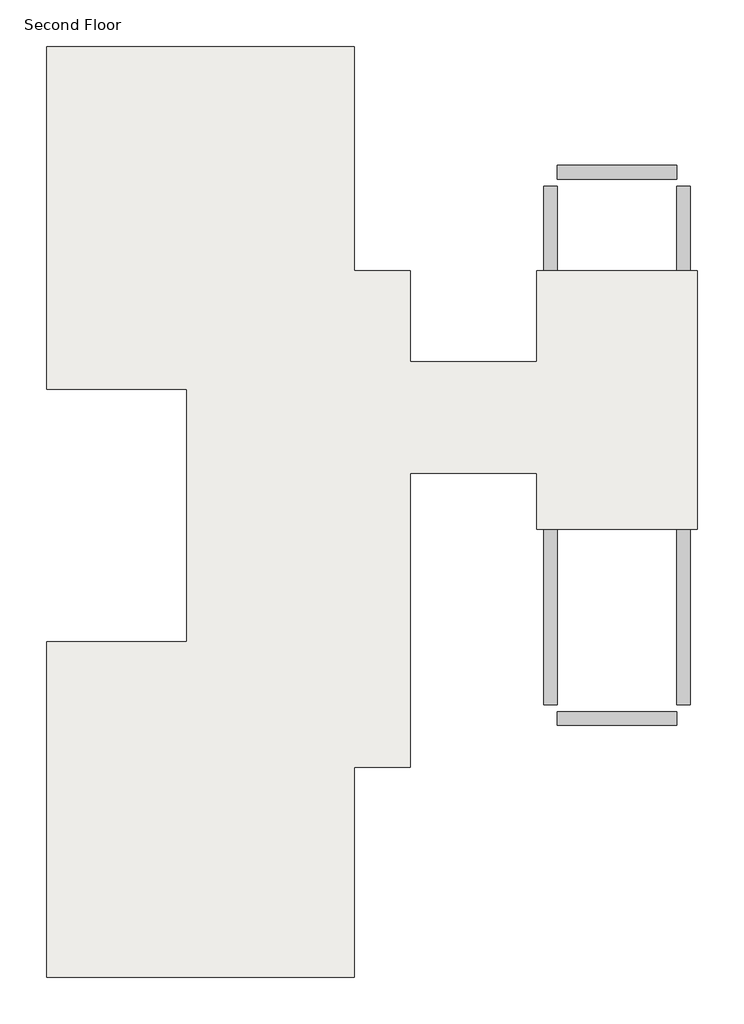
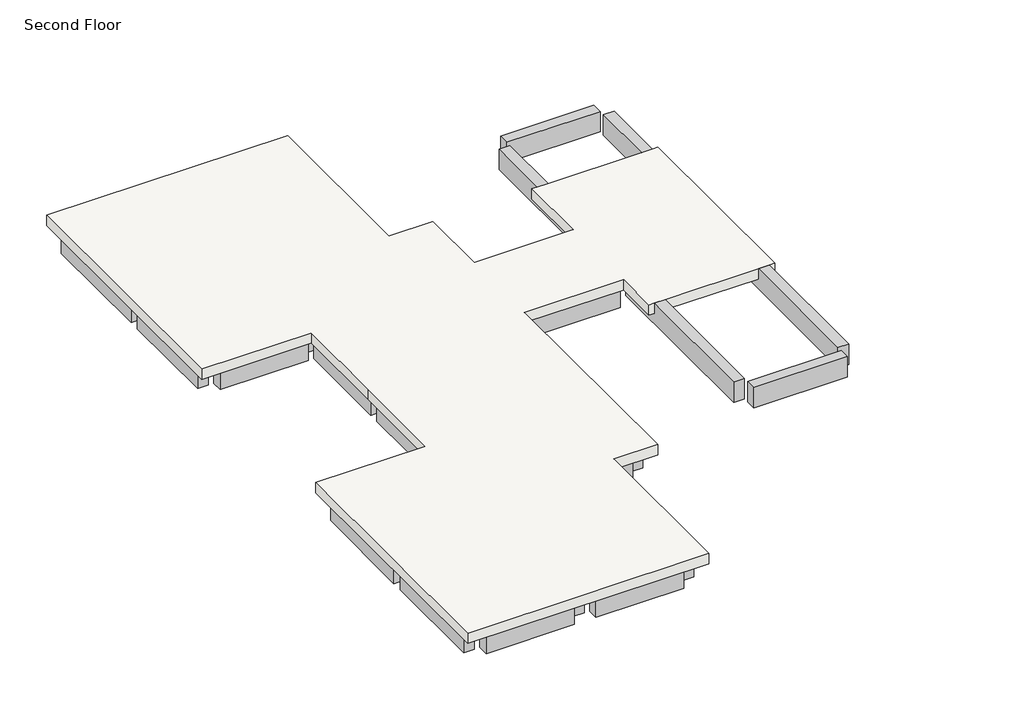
# One storey: 20 beams, 1 slab.
"""IFC4 building model written with IfcOpenShell, lengths in millimetres."""

from ifc_helpers import new_model, si_unit, frame, origin, place, context, project, spatial, polyline, outline, extrude, faceted_brep, element, save

model = new_model("IFC4")

# Units and contexts
model_context = context("Model", 3, world=origin())
ifc_project = project(units=[si_unit("LENGTHUNIT", "METRE", prefix="MILLI")], contexts=[model_context])

# Site, building, storey
site = spatial("IfcSite", under=ifc_project)
building = spatial("IfcBuilding", under=site)
storey = spatial("IfcBuildingStorey", under=building, Name="Second Floor", Elevation=3810.0)

# Beams
placement = place(None, origin())
element("IfcBeam", 1, ObjectType="M_Concrete-Rectangular Beam : 300 x 600mm", at=placement, inside=storey, context=model_context, shape_type="Brep", body=[
    faceted_brep([(-10964.7526929, 13307.19569, 3510.0), (-14012.7526929, 13307.19569, 3510.0), (-14012.7526929, 13157.19569, 3510.0), (-14012.7526929, 13007.19569, 3510.0), (-13862.7526929, 13007.19569, 3510.0), (-11114.7526929, 13007.19569, 3510.0), (-10964.7526929, 13007.19569, 3510.0), (-10964.7526929, 13157.19569, 3510.0), (-14012.7526929, 13007.19569, 3505.2), (-13712.7526929, 13007.19569, 3505.2), (-13712.7526929, 13007.19569, 2910.0), (-11264.7526929, 13007.19569, 2910.0), (-11264.7526929, 13007.19569, 3505.2), (-10964.7526929, 13007.19569, 3505.2), (-13712.7526929, 13307.19569, 2910.0), (-11264.7526929, 13307.19569, 2910.0), (-10964.7526929, 13307.19569, 3505.2), (-11264.7526929, 13307.19569, 3505.2), (-13712.7526929, 13307.19569, 3505.2), (-14012.7526929, 13307.19569, 3505.2), (-14012.7526929, 13157.19569, 3505.2), (-10964.7526929, 13157.19569, 3505.2)], [[[0, 1, 2, 3, 4, 5, 6, 7]], [[6, 5, 4, 3, 8, 9, 10, 11, 12, 13]], [[10, 14, 15, 11]], [[1, 0, 16, 17, 15, 14, 18, 19]], [[9, 18, 14, 10]], [[18, 9, 8, 20, 19]], [[17, 12, 11, 15]], [[12, 17, 16, 21, 13]], [[3, 2, 1, 19, 20, 8]], [[0, 7, 6, 13, 21, 16]]]),
])
element("IfcBeam", 2, ObjectType="M_Concrete-Rectangular Beam : 300 x 600mm", at=placement, inside=storey, context=model_context, shape_type="Brep", body=[
    faceted_brep([(-7916.7526929, 13307.19569, 3510.0), (-10964.7526929, 13307.19569, 3510.0), (-10964.7526929, 13157.19569, 3510.0), (-10814.7526929, 13157.19569, 3510.0), (-10814.7526929, 13007.19569, 3510.0), (-8066.7526929, 13007.19569, 3510.0), (-7916.7526929, 13007.19569, 3510.0), (-7916.7526929, 13157.19569, 3510.0), (-10664.7526929, 13007.19569, 3505.2), (-10664.7526929, 13007.19569, 2910.0), (-8216.7526929, 13007.19569, 2910.0), (-8216.7526929, 13007.19569, 3505.2), (-7916.7526929, 13007.19569, 3505.2), (-10814.7526929, 13007.19569, 3505.2), (-10664.7526929, 13307.19569, 2910.0), (-8216.7526929, 13307.19569, 2910.0), (-7916.7526929, 13307.19569, 3505.2), (-8216.7526929, 13307.19569, 3505.2), (-10664.7526929, 13307.19569, 3505.2), (-10964.7526929, 13307.19569, 3505.2), (-10814.7526929, 13157.19569, 3505.2), (-10964.7526929, 13157.19569, 3505.2), (-7916.7526929, 13157.19569, 3505.2)], [[[0, 1, 2, 3, 4, 5, 6, 7]], [[8, 9, 10, 11, 12, 6, 5, 4, 13]], [[9, 14, 15, 10]], [[1, 0, 16, 17, 15, 14, 18, 19]], [[8, 18, 14, 9]], [[18, 8, 13, 20, 21, 19]], [[17, 11, 10, 15]], [[11, 17, 16, 22, 12]], [[3, 20, 13, 4]], [[1, 19, 21, 2]], [[0, 7, 6, 12, 22, 16]], [[20, 3, 2, 21]]]),
])
element("IfcBeam", 3, ObjectType="M_Concrete-Rectangular Beam : 300 x 600mm", at=placement, inside=storey, context=model_context, shape_type="Brep", body=[
    faceted_brep([(-14162.7526929, 13157.19569, 3510.0), (-14162.7526929, 6299.19569, 3510.0), (-14012.7526929, 6299.19569, 3510.0), (-13862.7526929, 6299.19569, 3510.0), (-13862.7526929, 6449.19569, 3510.0), (-13862.7526929, 9349.59569, 3510.0), (-13862.7526929, 9649.59569, 3510.0), (-13862.7526929, 13007.19569, 3510.0), (-14012.7526929, 13007.19569, 3510.0), (-14012.7526929, 13157.19569, 3510.0), (-14162.7526929, 13157.19569, 3505.2), (-14162.7526929, 13007.19569, 3505.2), (-14162.7526929, 13007.19569, 2910.0), (-14162.7526929, 9649.59569, 2910.0), (-14162.7526929, 9649.59569, 3505.2), (-14162.7526929, 9349.59569, 3505.2), (-14162.7526929, 9349.59569, 2910.0), (-14162.7526929, 6449.19569, 2910.0), (-14162.7526929, 6449.19569, 3505.2), (-14162.7526929, 6299.19569, 3505.2), (-13862.7526929, 9349.59569, 2910.0), (-13862.7526929, 6449.19569, 2910.0), (-13862.7526929, 9649.59569, 3505.2), (-13862.7526929, 9649.59569, 2910.0), (-13862.7526929, 13007.19569, 2910.0), (-13862.7526929, 6299.19569, 3505.2), (-13862.7526929, 6449.19569, 3505.2), (-13862.7526929, 9349.59569, 3505.2), (-14012.7526929, 13007.19569, 3505.2), (-14012.7526929, 13157.19569, 3505.2), (-14012.7526929, 6299.19569, 3505.2)], [[[0, 1, 2, 3, 4, 5, 6, 7, 8, 9]], [[1, 0, 10, 11, 12, 13, 14, 15, 16, 17, 18, 19]], [[16, 20, 21, 17]], [[22, 23, 24, 7, 6, 5, 4, 3, 25, 26, 21, 20, 27]], [[8, 7, 24, 12, 11, 28]], [[28, 11, 10, 29]], [[22, 14, 13, 23]], [[15, 27, 20, 16]], [[14, 22, 27, 15]], [[23, 13, 12, 24]], [[26, 18, 17, 21]], [[18, 26, 25, 30, 19]], [[0, 9, 29, 10]], [[3, 2, 1, 19, 30, 25]], [[9, 8, 28, 29]]]),
])
element("IfcBeam", 4, ObjectType="M_Concrete-Rectangular Beam : 300 x 600mm", at=placement, inside=storey, context=model_context, shape_type="Brep", body=[
    faceted_brep([(-13862.7526929, 9649.59569, 3510.0), (-13862.7526929, 9349.59569, 3510.0), (-11114.7526929, 9349.59569, 3510.0), (-10814.7526929, 9349.59569, 3510.0), (-8066.7526929, 9349.59569, 3510.0), (-8066.7526929, 9649.59569, 3510.0), (-10814.7526929, 9649.59569, 3510.0), (-11114.7526929, 9649.59569, 3510.0), (-13862.7526929, 9349.59569, 3505.2), (-13712.7526929, 9349.59569, 3505.2), (-13712.7526929, 9349.59569, 2910.0), (-11264.7526929, 9349.59569, 2910.0), (-11264.7526929, 9349.59569, 3505.2), (-10664.7526929, 9349.59569, 3505.2), (-10664.7526929, 9349.59569, 2910.0), (-8216.7526929, 9349.59569, 2910.0), (-8216.7526929, 9349.59569, 3505.2), (-8066.7526929, 9349.59569, 3505.2), (-13712.7526929, 9649.59569, 2910.0), (-11264.7526929, 9649.59569, 2910.0), (-13862.7526929, 9649.59569, 3505.2), (-8066.7526929, 9649.59569, 3505.2), (-8216.7526929, 9649.59569, 3505.2), (-8216.7526929, 9649.59569, 2910.0), (-10664.7526929, 9649.59569, 2910.0), (-10664.7526929, 9649.59569, 3505.2), (-11264.7526929, 9649.59569, 3505.2), (-13712.7526929, 9649.59569, 3505.2)], [[[0, 1, 2, 3, 4, 5, 6, 7]], [[1, 8, 9, 10, 11, 12, 13, 14, 15, 16, 17, 4, 3, 2]], [[10, 18, 19, 11]], [[20, 0, 7, 6, 5, 21, 22, 23, 24, 25, 26, 19, 18, 27]], [[1, 0, 20, 8]], [[9, 27, 18, 10]], [[27, 9, 8, 20]], [[13, 25, 24, 14]], [[26, 12, 11, 19]], [[25, 13, 12, 26]], [[14, 24, 23, 15]], [[22, 16, 15, 23]], [[16, 22, 21, 17]], [[5, 4, 17, 21]]]),
])
element("IfcBeam", 5, ObjectType="M_Concrete-Rectangular Beam : 300 x 600mm", at=placement, inside=storey, context=model_context, shape_type="Brep", body=[
    faceted_brep([(-13862.7526929, 6449.19569, 3510.0), (-13862.7526929, 6299.19569, 3510.0), (-14012.7526929, 6299.19569, 3510.0), (-14012.7526929, 6149.19569, 3510.0), (-11114.7526929, 6149.19569, 3510.0), (-10814.7526929, 6149.19569, 3510.0), (-6847.5526929, 6149.19569, 3510.0), (-6547.5526929, 6149.19569, 3510.0), (-3644.7526929, 6149.19569, 3510.0), (-3644.7526929, 6449.19569, 3510.0), (-6547.5526929, 6449.19569, 3510.0), (-6847.5526929, 6449.19569, 3510.0), (-10814.7526929, 6449.19569, 3510.0), (-11114.7526929, 6449.19569, 3510.0), (-6397.5526929, 6149.19569, 3505.2), (-6397.5526929, 6149.19569, 2910.0), (-3644.7526929, 6149.19569, 2910.0), (-14012.7526929, 6149.19569, 3505.2), (-13712.7526929, 6149.19569, 3505.2), (-13712.7526929, 6149.19569, 2910.0), (-11264.7526929, 6149.19569, 2910.0), (-11264.7526929, 6149.19569, 3505.2), (-10664.7526929, 6149.19569, 3505.2), (-10664.7526929, 6149.19569, 2910.0), (-6997.5526929, 6149.19569, 2910.0), (-6997.5526929, 6149.19569, 3505.2), (-11264.7526929, 6449.19569, 2910.0), (-13712.7526929, 6449.19569, 2910.0), (-6397.5526929, 6449.19569, 2910.0), (-6397.5526929, 6449.19569, 3505.2), (-6997.5526929, 6449.19569, 3505.2), (-6997.5526929, 6449.19569, 2910.0), (-10664.7526929, 6449.19569, 2910.0), (-10664.7526929, 6449.19569, 3505.2), (-11264.7526929, 6449.19569, 3505.2), (-13712.7526929, 6449.19569, 3505.2), (-13862.7526929, 6449.19569, 3505.2), (-3644.7526929, 6449.19569, 2910.0), (-13862.7526929, 6299.19569, 3505.2), (-14012.7526929, 6299.19569, 3505.2)], [[[0, 1, 2, 3, 4, 5, 6, 7, 8, 9, 10, 11, 12, 13]], [[14, 15, 16, 8, 7, 6, 5, 4, 3, 17, 18, 19, 20, 21, 22, 23, 24, 25]], [[26, 20, 19, 27]], [[28, 29, 30, 31, 32, 33, 34, 26, 27, 35, 36, 0, 13, 12, 11, 10, 9, 37]], [[1, 0, 36, 38]], [[14, 29, 28, 15]], [[30, 25, 24, 31]], [[29, 14, 25, 30]], [[22, 33, 32, 23]], [[34, 21, 20, 26]], [[33, 22, 21, 34]], [[18, 35, 27, 19]], [[35, 18, 17, 39, 38, 36]], [[9, 8, 16, 37]], [[31, 24, 23, 32]], [[15, 28, 37, 16]], [[3, 2, 39, 17]], [[2, 1, 38, 39]]]),
    faceted_brep([(-749.1526929, 6449.19569, 3510.0), (-749.1526929, 6149.19569, 3510.0), (-749.1526929, 6149.19569, 2910.0), (-749.1526929, 6449.19569, 2910.0), (-3044.7526929, 6149.19569, 2910.0), (-3044.7526929, 6449.19569, 2910.0), (-3044.7526929, 6149.19569, 3510.0), (-3044.7526929, 6449.19569, 3510.0)], [[[0, 1, 2, 3]], [[3, 2, 4, 5]], [[6, 7, 5, 4]], [[1, 0, 7, 6]], [[2, 1, 6, 4]], [[0, 3, 5, 7]]]),
])
element("IfcBeam", 6, ObjectType="M_Concrete-Rectangular Beam : 300 x 600mm", at=placement, inside=storey, context=model_context, shape_type="Brep", body=[
    faceted_brep([(-10964.7526929, 13007.19569, 3510.0), (-11114.7526929, 13007.19569, 3510.0), (-11114.7526929, 9649.59569, 3510.0), (-10814.7526929, 9649.59569, 3510.0), (-10814.7526929, 13007.19569, 3510.0), (-10814.7526929, 13157.19569, 3510.0), (-10964.7526929, 13157.19569, 3510.0), (-11114.7526929, 9649.59569, 2910.0), (-11114.7526929, 13007.19569, 2910.0), (-10814.7526929, 9649.59569, 2910.0), (-10814.7526929, 13007.19569, 2910.0), (-10814.7526929, 13007.19569, 3505.2), (-10814.7526929, 13157.19569, 3505.2), (-10964.7526929, 13007.19569, 3505.2), (-10964.7526929, 13157.19569, 3505.2)], [[[0, 1, 2, 3, 4, 5, 6]], [[7, 2, 1, 8]], [[9, 7, 8, 10]], [[3, 9, 10, 11, 12, 5, 4]], [[1, 0, 13, 11, 10, 8]], [[11, 13, 14, 12]], [[7, 9, 3, 2]], [[6, 5, 12, 14]], [[0, 6, 14, 13]]]),
    faceted_brep([(-10814.7526929, 9349.59569, 2910.0), (-11114.7526929, 9349.59569, 2910.0), (-11114.7526929, 9349.59569, 3510.0), (-10814.7526929, 9349.59569, 3510.0), (-10814.7526929, 6449.19569, 2910.0), (-10814.7526929, 6449.19569, 3510.0), (-11114.7526929, 6449.19569, 3510.0), (-11114.7526929, 6449.19569, 2910.0)], [[[0, 1, 2, 3]], [[4, 5, 6, 7]], [[2, 1, 7, 6]], [[0, 3, 5, 4]], [[1, 0, 4, 7]], [[3, 2, 6, 5]]]),
    faceted_brep([(-11114.7526929, 3401.19569, 2910.0), (-11114.7526929, 6149.19569, 2910.0), (-10814.7526929, 6149.19569, 2910.0), (-10814.7526929, 3401.19569, 2910.0), (-11114.7526929, 6149.19569, 3510.0), (-10814.7526929, 6149.19569, 3510.0), (-10814.7526929, 3401.19569, 3505.2), (-11114.7526929, 3401.19569, 3505.2), (-11114.7526929, 3101.19569, 3505.2), (-10814.7526929, 3101.19569, 3505.2), (-10814.7526929, 3101.19569, 2910.0), (-11114.7526929, 3101.19569, 2910.0), (-10814.7526929, 353.19569, 3505.2), (-11114.7526929, 353.19569, 3505.2), (-11114.7526929, 353.19569, 2910.0), (-10814.7526929, 353.19569, 2910.0), (-11114.7526929, 53.19569, 3505.2), (-10814.7526929, 53.19569, 3505.2), (-10814.7526929, 53.19569, 2910.0), (-11114.7526929, 53.19569, 2910.0), (-10814.7526929, -2999.60431, 3505.2), (-11114.7526929, -2999.60431, 3505.2), (-11114.7526929, -2999.60431, 2910.0), (-10814.7526929, -2999.60431, 2910.0), (-11114.7526929, -3299.60431, 3505.2), (-10814.7526929, -3299.60431, 3505.2), (-10814.7526929, -3299.60431, 2910.0), (-11114.7526929, -3299.60431, 2910.0), (-11114.7526929, -6352.40431, 2910.0), (-10814.7526929, -6352.40431, 2910.0), (-10814.7526929, -6352.40431, 3510.0), (-11114.7526929, -6352.40431, 3510.0), (-11114.7526929, 353.19569, 3510.0), (-11114.7526929, 53.19569, 3510.0), (-11114.7526929, -2999.60431, 3510.0), (-11114.7526929, -3299.60431, 3510.0), (-10814.7526929, -3299.60431, 3510.0), (-10814.7526929, -2999.60431, 3510.0), (-10814.7526929, 53.19569, 3510.0), (-10814.7526929, 353.19569, 3510.0)], [[[0, 1, 2, 3]], [[1, 4, 5, 2]], [[6, 7, 0, 3]], [[8, 9, 10, 11]], [[7, 6, 9, 8]], [[12, 13, 14, 15]], [[16, 17, 18, 19]], [[13, 12, 17, 16]], [[20, 21, 22, 23]], [[24, 25, 26, 27]], [[21, 20, 25, 24]], [[28, 29, 30, 31]], [[5, 4, 32, 33, 34, 35, 31, 30, 36, 37, 38, 39]], [[0, 7, 8, 11, 14, 13, 16, 19, 22, 21, 24, 27, 28, 31, 35, 34, 33, 32, 4, 1]], [[6, 3, 2, 5, 39, 38, 37, 36, 30, 29, 26, 25, 20, 23, 18, 17, 12, 15, 10, 9]], [[28, 27, 26, 29]], [[14, 11, 10, 15]], [[22, 19, 18, 23]]]),
])
element("IfcBeam", 7, ObjectType="M_Concrete-Rectangular Beam : 300 x 600mm", at=placement, inside=storey, context=model_context, shape_type="Brep", body=[
    faceted_brep([(-13862.7526929, -6502.40431, 3510.0), (-13862.7526929, -6352.40431, 3510.0), (-13862.7526929, -3299.60431, 3510.0), (-13862.7526929, -2999.60431, 3510.0), (-13862.7526929, 53.19569, 3510.0), (-13862.7526929, 203.19569, 3510.0), (-14012.7526929, 203.19569, 3510.0), (-14162.7526929, 203.19569, 3510.0), (-14162.7526929, -6502.40431, 3510.0), (-14012.7526929, -6502.40431, 3510.0), (-14162.7526929, 203.19569, 3505.2), (-14162.7526929, 53.19569, 3505.2), (-14162.7526929, 53.19569, 2910.0), (-14162.7526929, -2999.60431, 2910.0), (-14162.7526929, -2999.60431, 3505.2), (-14162.7526929, -3299.60431, 3505.2), (-14162.7526929, -3299.60431, 2910.0), (-14162.7526929, -6352.40431, 2910.0), (-14162.7526929, -6352.40431, 3505.2), (-14162.7526929, -6502.40431, 3505.2), (-13862.7526929, 53.19569, 2910.0), (-13862.7526929, -2999.60431, 2910.0), (-13862.7526929, -6502.40431, 3505.2), (-13862.7526929, -6352.40431, 3505.2), (-13862.7526929, -6352.40431, 2910.0), (-13862.7526929, -3299.60431, 2910.0), (-13862.7526929, -3299.60431, 3505.2), (-13862.7526929, -2999.60431, 3505.2), (-13862.7526929, 53.19569, 3505.2), (-13862.7526929, 203.19569, 3505.2), (-14012.7526929, 203.19569, 3505.2), (-14012.7526929, -6502.40431, 3505.2)], [[[0, 1, 2, 3, 4, 5, 6, 7, 8, 9]], [[8, 7, 10, 11, 12, 13, 14, 15, 16, 17, 18, 19]], [[12, 20, 21, 13]], [[5, 4, 3, 2, 1, 0, 22, 23, 24, 25, 26, 27, 21, 20, 28, 29]], [[11, 28, 20, 12]], [[28, 11, 10, 30, 29]], [[27, 14, 13, 21]], [[15, 26, 25, 16]], [[14, 27, 26, 15]], [[16, 25, 24, 17]], [[23, 18, 17, 24]], [[18, 23, 22, 31, 19]], [[7, 6, 5, 29, 30, 10]], [[0, 9, 8, 19, 31, 22]]]),
])
element("IfcBeam", 8, ObjectType="M_Concrete-Rectangular Beam : 300 x 600mm", at=placement, inside=storey, context=model_context, shape_type="Brep", body=[
    faceted_brep([(-13862.7526929, 203.19569, 3510.0), (-13862.7526929, 53.19569, 3510.0), (-11114.7526929, 53.19569, 3510.0), (-11114.7526929, 353.19569, 3510.0), (-14012.7526929, 353.19569, 3510.0), (-14012.7526929, 203.19569, 3510.0), (-13862.7526929, 53.19569, 3505.2), (-13712.7526929, 53.19569, 3505.2), (-13712.7526929, 53.19569, 2910.0), (-11264.7526929, 53.19569, 2910.0), (-11264.7526929, 53.19569, 3505.2), (-11114.7526929, 53.19569, 3505.2), (-13712.7526929, 353.19569, 2910.0), (-11264.7526929, 353.19569, 2910.0), (-13862.7526929, 203.19569, 3505.2), (-13712.7526929, 353.19569, 3505.2), (-14012.7526929, 203.19569, 3505.2), (-14012.7526929, 353.19569, 3505.2), (-11264.7526929, 353.19569, 3505.2), (-11114.7526929, 353.19569, 3505.2)], [[[0, 1, 2, 3, 4, 5]], [[1, 6, 7, 8, 9, 10, 11, 2]], [[8, 12, 13, 9]], [[1, 0, 14, 6]], [[7, 15, 12, 8]], [[15, 7, 6, 14, 16, 17]], [[18, 10, 9, 13]], [[10, 18, 19, 11]], [[3, 2, 11, 19]], [[12, 15, 17, 4, 3, 19, 18, 13]], [[5, 4, 17, 16]], [[0, 5, 16, 14]]]),
    faceted_brep([(-10664.7526929, 353.19569, 2910.0), (-10664.7526929, 353.19569, 3505.2), (-10814.7526929, 353.19569, 3505.2), (-10814.7526929, 353.19569, 3510.0), (-6847.5526929, 353.19569, 3510.0), (-6847.5526929, 353.19569, 3505.2), (-6997.5526929, 353.19569, 3505.2), (-6997.5526929, 353.19569, 2910.0), (-10664.7526929, 53.19569, 3505.2), (-10664.7526929, 53.19569, 2910.0), (-6997.5526929, 53.19569, 2910.0), (-6997.5526929, 53.19569, 3505.2), (-6847.5526929, 53.19569, 3505.2), (-10814.7526929, 53.19569, 3510.0), (-10814.7526929, 53.19569, 3505.2), (-6847.5526929, 53.19569, 3510.0)], [[[0, 1, 2, 3, 4, 5, 6, 7]], [[8, 1, 0, 9]], [[9, 0, 7, 10]], [[6, 11, 10, 7]], [[11, 6, 5, 12]], [[13, 3, 2, 14]], [[3, 13, 15, 4]], [[8, 9, 10, 11, 12, 15, 13, 14]], [[1, 8, 14, 2]], [[5, 4, 15, 12]]]),
])
element("IfcBeam", 9, ObjectType="M_Concrete-Rectangular Beam : 300 x 600mm", at=placement, inside=storey, context=model_context, shape_type="Brep", body=[
    faceted_brep([(-7916.7526929, 13007.19569, 3510.0), (-8066.7526929, 13007.19569, 3510.0), (-8066.7526929, 9649.59569, 3510.0), (-8066.7526929, 9349.59569, 3510.0), (-8066.7526929, 8130.39569, 3510.0), (-7766.7526929, 8130.39569, 3510.0), (-7766.7526929, 8430.39569, 3510.0), (-7766.7526929, 13157.19569, 3510.0), (-7916.7526929, 13157.19569, 3510.0), (-8066.7526929, 13007.19569, 2910.0), (-8066.7526929, 9649.59569, 2910.0), (-8066.7526929, 9649.59569, 3505.2), (-8066.7526929, 9349.59569, 3505.2), (-8066.7526929, 9349.59569, 2910.0), (-8066.7526929, 8130.39569, 2910.0), (-7766.7526929, 13007.19569, 2910.0), (-7766.7526929, 9649.59569, 2910.0), (-7766.7526929, 13007.19569, 3505.2), (-7766.7526929, 13157.19569, 3505.2), (-7766.7526929, 8130.39569, 2910.0), (-7766.7526929, 8430.39569, 2910.0), (-7766.7526929, 9349.59569, 2910.0), (-7766.7526929, 9349.59569, 3505.2), (-7766.7526929, 9649.59569, 3505.2), (-7916.7526929, 13007.19569, 3505.2), (-7916.7526929, 13157.19569, 3505.2)], [[[0, 1, 2, 3, 4, 5, 6, 7, 8]], [[1, 9, 10, 11, 12, 13, 14, 4, 3, 2]], [[9, 15, 16, 10]], [[15, 17, 18, 7, 6, 5, 19, 20, 21, 22, 23, 16]], [[1, 0, 24, 17, 15, 9]], [[17, 24, 25, 18]], [[23, 11, 10, 16]], [[12, 22, 21, 13]], [[11, 23, 22, 12]], [[19, 14, 13, 21, 20]], [[8, 7, 18, 25]], [[5, 4, 14, 19]], [[0, 8, 25, 24]]]),
])
element("IfcBeam", 10, ObjectType="M_Concrete-Rectangular Beam : 300 x 600mm", at=placement, inside=storey, context=model_context, shape_type="Brep", body=[
    faceted_brep([(-7766.7526929, 8430.39569, 3510.0), (-7766.7526929, 8130.39569, 3510.0), (-6847.5526929, 8130.39569, 3510.0), (-6697.5526929, 8130.39569, 3510.0), (-6697.5526929, 8280.39569, 3510.0), (-6697.5526929, 8430.39569, 3510.0), (-7766.7526929, 8130.39569, 2910.0), (-6997.5526929, 8130.39569, 2910.0), (-6997.5526929, 8130.39569, 3505.2), (-6697.5526929, 8130.39569, 3505.2), (-7766.7526929, 8430.39569, 2910.0), (-6997.5526929, 8430.39569, 2910.0), (-6697.5526929, 8430.39569, 3505.2), (-6997.5526929, 8430.39569, 3505.2), (-6697.5526929, 8280.39569, 3505.2)], [[[0, 1, 2, 3, 4, 5]], [[3, 2, 1, 6, 7, 8, 9]], [[6, 10, 11, 7]], [[10, 0, 5, 12, 13, 11]], [[1, 0, 10, 6]], [[13, 8, 7, 11]], [[8, 13, 12, 14, 9]], [[5, 4, 3, 9, 14, 12]]]),
])
element("IfcBeam", 11, ObjectType="M_Concrete-Rectangular Beam : 300 x 600mm", at=placement, inside=storey, context=model_context, shape_type="Brep", body=[
    faceted_brep([(-6697.5526929, 8130.39569, 3510.0), (-6847.5526929, 8130.39569, 3510.0), (-6847.5526929, 6449.19569, 3510.0), (-6547.5526929, 6449.19569, 3510.0), (-6547.5526929, 8280.39569, 3510.0), (-6697.5526929, 8280.39569, 3510.0), (-6847.5526929, 6449.19569, 2910.0), (-6847.5526929, 8130.39569, 2910.0), (-6547.5526929, 6449.19569, 2910.0), (-6547.5526929, 8130.39569, 2910.0), (-6547.5526929, 8130.39569, 3505.2), (-6547.5526929, 8280.39569, 3505.2), (-6697.5526929, 8130.39569, 3505.2), (-6697.5526929, 8280.39569, 3505.2)], [[[0, 1, 2, 3, 4, 5]], [[6, 2, 1, 7]], [[8, 6, 7, 9]], [[3, 8, 9, 10, 11, 4]], [[1, 0, 12, 10, 9, 7]], [[10, 12, 13, 11]], [[6, 8, 3, 2]], [[5, 4, 11, 13]], [[0, 5, 13, 12]]]),
    faceted_brep([(-6847.5526929, 6149.19569, 3510.0), (-6547.5526929, 6149.19569, 3510.0), (-6547.5526929, 6149.19569, 2910.0), (-6847.5526929, 6149.19569, 2910.0), (-6847.5526929, 353.19569, 2910.0), (-6847.5526929, 3101.19569, 2910.0), (-6547.5526929, 3101.19569, 2910.0), (-6547.5526929, 353.19569, 2910.0), (-6547.5526929, 3401.19569, 3505.2), (-6847.5526929, 3401.19569, 3505.2), (-6847.5526929, 3401.19569, 2910.0), (-6547.5526929, 3401.19569, 2910.0), (-6847.5526929, 3101.19569, 3505.2), (-6547.5526929, 3101.19569, 3505.2), (-6547.5526929, 353.19569, 3505.2), (-6847.5526929, 353.19569, 3505.2), (-6847.5526929, 53.19569, 3505.2), (-6547.5526929, 53.19569, 3505.2), (-6547.5526929, 53.19569, 2910.0), (-6847.5526929, 53.19569, 2910.0), (-6547.5526929, -1780.40431, 3505.2), (-6847.5526929, -1780.40431, 3505.2), (-6847.5526929, -1780.40431, 2910.0), (-6547.5526929, -1780.40431, 2910.0), (-6547.5526929, -1930.40431, 3505.2), (-6697.5526929, -1930.40431, 3505.2), (-6847.5526929, -1930.40431, 3505.2), (-6847.5526929, -1930.40431, 3510.0), (-6697.5526929, -1930.40431, 3510.0), (-6547.5526929, -1930.40431, 3510.0), (-6547.5526929, 4320.39569, 3510.0), (-6547.5526929, 4620.39569, 3510.0), (-6847.5526929, 353.19569, 3510.0), (-6847.5526929, 53.19569, 3510.0), (-6847.5526929, -1780.40431, 3510.0), (-6547.5526929, 4320.39569, 2910.0), (-6547.5526929, 4620.39569, 2910.0)], [[[0, 1, 2, 3]], [[4, 5, 6, 7]], [[8, 9, 10, 11]], [[12, 13, 6, 5]], [[9, 8, 13, 12]], [[14, 15, 4, 7]], [[16, 17, 18, 19]], [[15, 14, 17, 16]], [[20, 21, 22, 23]], [[21, 20, 24, 25, 26]], [[27, 28, 29, 30, 31, 1, 0, 32, 33, 34]], [[0, 3, 10, 9, 12, 5, 4, 15, 16, 19, 22, 21, 26, 27, 34, 33, 32]], [[2, 1, 31, 30, 29, 24, 20, 23, 18, 17, 14, 7, 6, 13, 8, 11, 35, 36]], [[29, 28, 27, 26, 25, 24]], [[3, 2, 36, 35, 11, 10]], [[22, 19, 18, 23]]]),
])
element("IfcBeam", 12, ObjectType="M_Concrete-Rectangular Beam : 300 x 600mm", at=placement, inside=storey, context=model_context, shape_type="Brep", body=[
    faceted_brep([(-6847.5526929, -1930.40431, 3510.0), (-6847.5526929, -1780.40431, 3510.0), (-8066.7526929, -1780.40431, 3510.0), (-8066.7526929, -2080.40431, 3510.0), (-7766.7526929, -2080.40431, 3510.0), (-6697.5526929, -2080.40431, 3510.0), (-6697.5526929, -1930.40431, 3510.0), (-8066.7526929, -1780.40431, 2910.0), (-6847.5526929, -1780.40431, 3505.2), (-6997.5526929, -1780.40431, 3505.2), (-6997.5526929, -1780.40431, 2910.0), (-8066.7526929, -2080.40431, 2910.0), (-6997.5526929, -2080.40431, 2910.0), (-7766.7526929, -2080.40431, 2910.0), (-6997.5526929, -2080.40431, 3505.2), (-6697.5526929, -2080.40431, 3505.2), (-6847.5526929, -1930.40431, 3505.2), (-6697.5526929, -1930.40431, 3505.2)], [[[0, 1, 2, 3, 4, 5, 6]], [[7, 2, 1, 8, 9, 10]], [[11, 7, 10, 12, 13]], [[5, 4, 3, 11, 13, 12, 14, 15]], [[1, 0, 16, 8]], [[9, 14, 12, 10]], [[14, 9, 8, 16, 17, 15]], [[6, 5, 15, 17]], [[3, 2, 7, 11]], [[0, 6, 17, 16]]]),
])
element("IfcBeam", 13, ObjectType="M_Concrete-Rectangular Beam : 300 x 600mm", at=placement, inside=storey, context=model_context, shape_type="Brep", body=[
    faceted_brep([(-7766.7526929, -2080.40431, 3510.0), (-8066.7526929, -2080.40431, 3510.0), (-8066.7526929, -2999.60431, 3510.0), (-8066.7526929, -3299.60431, 3510.0), (-8066.7526929, -6352.40431, 3510.0), (-8066.7526929, -6502.40431, 3510.0), (-7916.7526929, -6502.40431, 3510.0), (-7766.7526929, -6502.40431, 3510.0), (-8066.7526929, -2999.60431, 2910.0), (-8066.7526929, -2999.60431, 3505.2), (-8066.7526929, -3299.60431, 3505.2), (-8066.7526929, -3299.60431, 2910.0), (-8066.7526929, -6352.40431, 2910.0), (-8066.7526929, -6352.40431, 3505.2), (-8066.7526929, -6502.40431, 3505.2), (-8066.7526929, -2080.40431, 2910.0), (-7766.7526929, -2080.40431, 2910.0), (-7766.7526929, -2999.60431, 2910.0), (-7766.7526929, -6502.40431, 3505.2), (-7766.7526929, -6352.40431, 3505.2), (-7766.7526929, -6352.40431, 2910.0), (-7766.7526929, -3299.60431, 2910.0), (-7766.7526929, -3299.60431, 3505.2), (-7766.7526929, -2999.60431, 3505.2), (-7916.7526929, -6502.40431, 3505.2)], [[[0, 1, 2, 3, 4, 5, 6, 7]], [[8, 9, 10, 11, 12, 13, 14, 5, 4, 3, 2, 1, 15]], [[15, 16, 17, 8]], [[16, 0, 7, 18, 19, 20, 21, 22, 23, 17]], [[1, 0, 16, 15]], [[23, 9, 8, 17]], [[10, 22, 21, 11]], [[9, 23, 22, 10]], [[11, 21, 20, 12]], [[19, 13, 12, 20]], [[13, 19, 18, 24, 14]], [[7, 6, 5, 14, 24, 18]]]),
])
element("IfcBeam", 14, ObjectType="M_Concrete-Rectangular Beam : 300 x 600mm", at=placement, inside=storey, context=model_context, shape_type="Brep", body=[
    faceted_brep([(-14012.7526929, -6652.40431, 3510.0), (-7916.7526929, -6652.40431, 3510.0), (-7916.7526929, -6502.40431, 3510.0), (-8066.7526929, -6502.40431, 3510.0), (-8066.7526929, -6352.40431, 3510.0), (-10814.7526929, -6352.40431, 3510.0), (-11114.7526929, -6352.40431, 3510.0), (-13862.7526929, -6352.40431, 3510.0), (-13862.7526929, -6502.40431, 3510.0), (-14012.7526929, -6502.40431, 3510.0), (-13862.7526929, -6352.40431, 3505.2), (-8066.7526929, -6352.40431, 3505.2), (-8216.7526929, -6352.40431, 3505.2), (-8216.7526929, -6352.40431, 2910.0), (-10664.7526929, -6352.40431, 2910.0), (-10664.7526929, -6352.40431, 3505.2), (-11264.7526929, -6352.40431, 3505.2), (-11264.7526929, -6352.40431, 2910.0), (-13712.7526929, -6352.40431, 2910.0), (-13712.7526929, -6352.40431, 3505.2), (-10664.7526929, -6652.40431, 2910.0), (-8216.7526929, -6652.40431, 2910.0), (-14012.7526929, -6652.40431, 3505.2), (-13712.7526929, -6652.40431, 3505.2), (-13712.7526929, -6652.40431, 2910.0), (-11264.7526929, -6652.40431, 2910.0), (-11264.7526929, -6652.40431, 3505.2), (-10664.7526929, -6652.40431, 3505.2), (-8216.7526929, -6652.40431, 3505.2), (-7916.7526929, -6652.40431, 3505.2), (-13862.7526929, -6502.40431, 3505.2), (-8066.7526929, -6502.40431, 3505.2), (-14012.7526929, -6502.40431, 3505.2), (-7916.7526929, -6502.40431, 3505.2)], [[[0, 1, 2, 3, 4, 5, 6, 7, 8, 9]], [[10, 7, 6, 5, 4, 11, 12, 13, 14, 15, 16, 17, 18, 19]], [[20, 14, 13, 21]], [[1, 0, 22, 23, 24, 25, 26, 27, 20, 21, 28, 29]], [[8, 7, 10, 30]], [[4, 3, 31, 11]], [[23, 19, 18, 24]], [[19, 23, 22, 32, 30, 10]], [[27, 15, 14, 20]], [[16, 26, 25, 17]], [[15, 27, 26, 16]], [[24, 18, 17, 25]], [[12, 28, 21, 13]], [[28, 12, 11, 31, 33, 29]], [[0, 9, 32, 22]], [[2, 1, 29, 33]], [[9, 8, 30, 32]], [[3, 2, 33, 31]]]),
])
element("IfcBeam", 15, ObjectType="M_Concrete-Rectangular Beam : 300 x 600mm", at=placement, inside=storey, context=model_context, shape_type="SweptSolid", body=[
    extrude(outline(polyline([(3510.0, -13862.7526929), (3505.2, -13862.7526929), (3505.2, -13712.7526929), (2910.0, -13712.7526929), (2910.0, -11264.7526929), (3505.2, -11264.7526929), (3505.2, -11114.7526929), (3510.0, -11114.7526929), (3510.0, -13862.7526929)])), frame((0.0, -3299.60431, 0.0), z_axis=(0.0, 1.0, 0.0), x_axis=(0.0, 0.0, 1.0)), (0.0, 0.0, 1.0), 300.0),
    extrude(outline(polyline([(3505.2, -10664.7526929), (2910.0, -10664.7526929), (2910.0, -8216.7526929), (3505.2, -8216.7526929), (3505.2, -8066.7526929), (3510.0, -8066.7526929), (3510.0, -10814.7526929), (3505.2, -10814.7526929), (3505.2, -10664.7526929)])), frame((0.0, -3299.60431, 0.0), z_axis=(0.0, 1.0, 0.0), x_axis=(0.0, 0.0, 1.0)), (0.0, 0.0, 1.0), 300.0),
])
element("IfcBeam", 16, ObjectType="M_Concrete-Rectangular Beam : 300 x 600mm", at=placement, inside=storey, context=model_context, shape_type="SweptSolid", body=[
    extrude(outline(polyline([(-6547.5526929, 4320.39569), (-6547.5526929, 4620.39569), (-3644.7526929, 4620.39569), (-3644.7526929, 4320.39569), (-6547.5526929, 4320.39569)])), frame((0.0, 0.0, 2910.0), z_axis=(0.0, 0.0, 1.0), x_axis=(1.0, 0.0, 0.0)), (0.0, 0.0, 1.0), 600.0),
    extrude(outline(polyline([(-749.1526929, 4620.39569), (-749.1526929, 4320.39569), (-3044.7526929, 4320.39569), (-3044.7526929, 4620.39569), (-749.1526929, 4620.39569)])), frame((0.0, 0.0, 2910.0), z_axis=(0.0, 0.0, 1.0), x_axis=(1.0, 0.0, 0.0)), (0.0, 0.0, 1.0), 600.0),
])
element("IfcBeam", 17, ObjectType="M_Concrete-Rectangular Beam : 300 x 600mm", at=placement, inside=storey, context=model_context, shape_type="SweptSolid", body=[
    extrude(outline(polyline([(-868.40431, 3210.0), (-868.40431, 3810.0), (2951.19569, 3810.0), (2951.19569, 3510.0), (4320.39569, 3510.0), (4320.39569, 3210.0), (-868.40431, 3210.0)])), frame((-3494.7526929, 0.0, 0.0), z_axis=(1.0, 0.0, 0.0), x_axis=(0.0, 1.0, 0.0)), (0.0, 0.0, 1.0), 300.0),
    extrude(outline(polyline([(10418.79569, 3810.0), (10418.79569, 3210.0), (6449.19569, 3210.0), (6449.19569, 3510.0), (8580.39569, 3510.0), (8580.39569, 3810.0), (10418.79569, 3810.0)])), frame((-3494.7526929, 0.0, 0.0), z_axis=(1.0, 0.0, 0.0), x_axis=(0.0, 1.0, 0.0)), (0.0, 0.0, 1.0), 300.0),
    extrude(outline(polyline([(-3494.7526929, 6149.19569), (-3194.7526929, 6149.19569), (-3194.7526929, 4620.39569), (-3494.7526929, 4620.39569), (-3494.7526929, 6149.19569)])), frame((0.0, 0.0, 3210.0), z_axis=(0.0, 0.0, 1.0), x_axis=(1.0, 0.0, 0.0)), (0.0, 0.0, 1.0), 300.0),
])
element("IfcBeam", 18, ObjectType="M_Concrete-Rectangular Beam : 300 x 600mm", at=placement, inside=storey, context=model_context, shape_type="SweptSolid", body=[
    extrude(outline(polyline([(-3194.7526929, -1318.40431), (-3194.7526929, -1018.40431), (-599.1526929, -1018.40431), (-599.1526929, -1318.40431), (-3194.7526929, -1318.40431)])), frame((0.0, 0.0, 3210.0), z_axis=(0.0, 0.0, 1.0), x_axis=(1.0, 0.0, 0.0)), (0.0, 0.0, 1.0), 600.0),
])
element("IfcBeam", 19, ObjectType="M_Concrete-Rectangular Beam : 300 x 600mm", at=placement, inside=storey, context=model_context, shape_type="SweptSolid", body=[
    extrude(outline(polyline([(10418.79569, 3810.0), (10418.79569, 3210.0), (6449.19569, 3210.0), (6449.19569, 3510.0), (8580.39569, 3510.0), (8580.39569, 3810.0), (10418.79569, 3810.0)])), frame((-599.1526929, 0.0, 0.0), z_axis=(1.0, 0.0, 0.0), x_axis=(0.0, 1.0, 0.0)), (0.0, 0.0, 1.0), 300.0),
    extrude(outline(polyline([(-868.40431, 3210.0), (-868.40431, 3810.0), (2951.19569, 3810.0), (2951.19569, 3510.0), (4320.39569, 3510.0), (4320.39569, 3210.0), (-868.40431, 3210.0)])), frame((-599.1526929, 0.0, 0.0), z_axis=(1.0, 0.0, 0.0), x_axis=(0.0, 1.0, 0.0)), (0.0, 0.0, 1.0), 300.0),
    extrude(outline(polyline([(-599.1526929, 6149.19569), (-299.1526929, 6149.19569), (-299.1526929, 4620.39569), (-599.1526929, 4620.39569), (-599.1526929, 6149.19569)])), frame((0.0, 0.0, 3210.0), z_axis=(0.0, 0.0, 1.0), x_axis=(1.0, 0.0, 0.0)), (0.0, 0.0, 1.0), 300.0),
])
element("IfcBeam", 20, ObjectType="M_Concrete-Rectangular Beam : 300 x 600mm", at=placement, inside=storey, context=model_context, shape_type="SweptSolid", body=[
    extrude(outline(polyline([(-3194.7526929, 10568.79569), (-3194.7526929, 10868.79569), (-599.1526929, 10868.79569), (-599.1526929, 10568.79569), (-3194.7526929, 10568.79569)])), frame((0.0, 0.0, 3210.0), z_axis=(0.0, 0.0, 1.0), x_axis=(1.0, 0.0, 0.0)), (0.0, 0.0, 1.0), 600.0),
])

# Slab
element("IfcSlab", 21, ObjectType="Generic 300mm", at=placement, inside=storey, context=model_context, shape_type="Brep", body=[
    faceted_brep([(-7616.7526929, 13457.19569, 3510.0), (-7616.7526929, 8580.39569, 3510.0), (-6397.5526929, 8580.39569, 3510.0), (-6397.5526929, 6599.19569, 3510.0), (-3644.7526929, 6599.19569, 3510.0), (-3644.7526929, 8580.39569, 3510.0), (-3494.7526929, 8580.39569, 3510.0), (-3194.7526929, 8580.39569, 3510.0), (-599.1526929, 8580.39569, 3510.0), (-299.1526929, 8580.39569, 3510.0), (-149.1526929, 8580.39569, 3510.0), (-149.1526929, 6449.19569, 3510.0), (-149.1526929, 6149.19569, 3510.0), (-149.1526929, 4620.39569, 3510.0), (-149.1526929, 4320.39569, 3510.0), (-149.1526929, 2951.19569, 3510.0), (-299.1526929, 2951.19569, 3510.0), (-599.1526929, 2951.19569, 3510.0), (-3194.7526929, 2951.19569, 3510.0), (-3494.7526929, 2951.19569, 3510.0), (-3644.7526929, 2951.19569, 3510.0), (-3644.7526929, 4170.39569, 3510.0), (-6397.5526929, 4170.39569, 3510.0), (-6397.5526929, -2230.40431, 3510.0), (-7616.7526929, -2230.40431, 3510.0), (-7616.7526929, -6802.40431, 3510.0), (-14312.7526929, -6802.40431, 3510.0), (-14312.7526929, 503.19569, 3510.0), (-11264.7526929, 503.19569, 3510.0), (-11264.7526929, 3251.19569, 3510.0), (-11264.7526929, 5999.19569, 3510.0), (-14312.7526929, 5999.19569, 3510.0), (-14312.7526929, 13457.19569, 3510.0), (-7616.7526929, 13457.19569, 3810.0), (-14312.7526929, 13457.19569, 3810.0), (-14312.7526929, 5999.19569, 3810.0), (-11264.7526929, 5999.19569, 3810.0), (-11264.7526929, 3251.19569, 3810.0), (-11264.7526929, 503.19569, 3810.0), (-14312.7526929, 503.19569, 3810.0), (-14312.7526929, -6802.40431, 3810.0), (-7616.7526929, -6802.40431, 3810.0), (-7616.7526929, -2230.40431, 3810.0), (-6397.5526929, -2230.40431, 3810.0), (-6397.5526929, 4170.39569, 3810.0), (-3644.7526929, 4170.39569, 3810.0), (-3644.7526929, 2951.19569, 3810.0), (-3494.7526929, 2951.19569, 3810.0), (-3194.7526929, 2951.19569, 3810.0), (-599.1526929, 2951.19569, 3810.0), (-299.1526929, 2951.19569, 3810.0), (-149.1526929, 2951.19569, 3810.0), (-149.1526929, 8580.39569, 3810.0), (-299.1526929, 8580.39569, 3810.0), (-599.1526929, 8580.39569, 3810.0), (-3194.7526929, 8580.39569, 3810.0), (-3494.7526929, 8580.39569, 3810.0), (-3644.7526929, 8580.39569, 3810.0), (-3644.7526929, 6599.19569, 3810.0), (-6397.5526929, 6599.19569, 3810.0), (-6397.5526929, 8580.39569, 3810.0), (-7616.7526929, 8580.39569, 3810.0)], [[[0, 1, 2, 3, 4, 5, 6, 7, 8, 9, 10, 11, 12, 13, 14, 15, 16, 17, 18, 19, 20, 21, 22, 23, 24, 25, 26, 27, 28, 29, 30, 31, 32]], [[33, 34, 35, 36, 37, 38, 39, 40, 41, 42, 43, 44, 45, 46, 47, 48, 49, 50, 51, 52, 53, 54, 55, 56, 57, 58, 59, 60, 61]], [[1, 0, 33, 61]], [[2, 1, 61, 60]], [[3, 2, 60, 59]], [[4, 3, 59, 58]], [[5, 4, 58, 57]], [[8, 7, 6, 5, 57, 56, 55, 54]], [[10, 9, 8, 54, 53, 52]], [[15, 14, 13, 12, 11, 10, 52, 51]], [[20, 19, 18, 17, 16, 15, 51, 50, 49, 48, 47, 46]], [[21, 20, 46, 45]], [[22, 21, 45, 44]], [[23, 22, 44, 43]], [[24, 23, 43, 42]], [[25, 24, 42, 41]], [[26, 25, 41, 40]], [[27, 26, 40, 39]], [[28, 27, 39, 38]], [[29, 28, 38, 37]], [[30, 29, 37, 36]], [[31, 30, 36, 35]], [[32, 31, 35, 34]], [[0, 32, 34, 33]]]),
])

save(model, "model.ifc")
